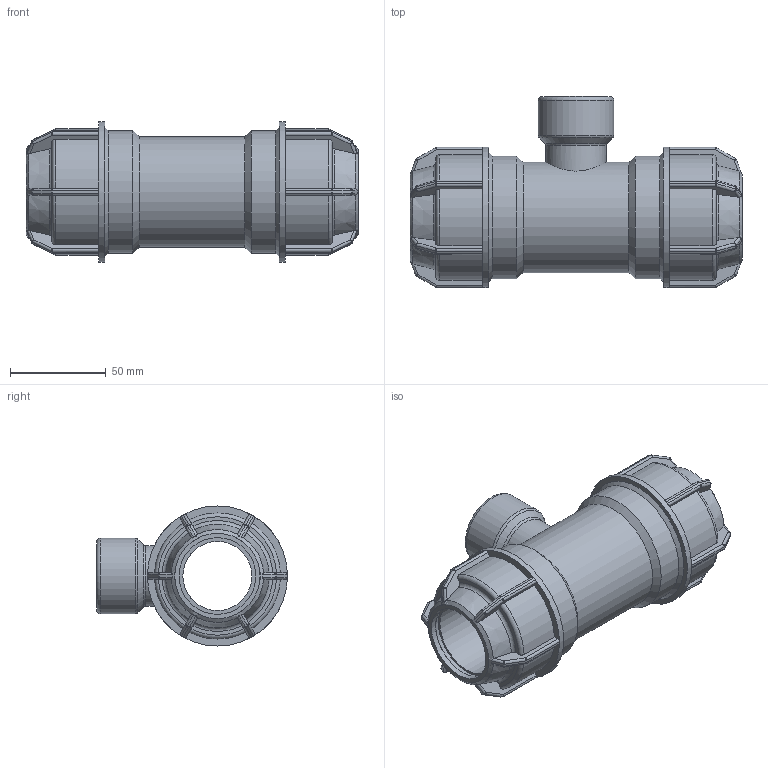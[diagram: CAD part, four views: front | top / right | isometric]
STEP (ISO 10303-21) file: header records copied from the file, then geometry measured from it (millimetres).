
FILE_DESCRIPTION(/* description */ ('PLASSON L.14 TEE FEMALE ADAPTOR (SILVER) 40 x 1" x 40'),/* implementation_level */ '2;1');
FILE_NAME(/* name */ 'C:\Dropbox\KIMPROJECTS-Inventor\99-16-3568-Processing\Silver Fittings\141400\141400040010.ipt.stp',/* time_stamp */ '2018-04-16T11:15:53+03:00',/* author */ ('KIM'),/* organization */ (''),/* preprocessor_version */ 'ST-DEVELOPER v15.6',/* originating_system */ 'Autodesk Inventor 2015',/* authorisation */ '');
FILE_SCHEMA (('AUTOMOTIVE_DESIGN { 1 0 10303 214 3 1 1 }'));
Length unit declared in the file: millimetre
Products named in the file (1): 141400040010
Bounding box: 173 x 99.5 x 73 mm (x, y, z)
Volume: 316290.7 mm3; surface area: 72551.8 mm2
Topology: 1 solids, 1 shells, 413 faces, 979 edges, 562 vertices
Faces by surface type: plane 193, cylinder 122, sphere 48, torus 31, cone 19
Full cylindrical faces by diameter (mm): 24 x1, 30.291 x1, 31.503 x1, 36 x1, 39.378 x1, 40 x4, 57.6 x1, 64 x2, 73 x2
Entity records: 11996 total; most frequent: CARTESIAN_POINT 3101, DIRECTION 1872, ORIENTED_EDGE 1822, EDGE_CURVE 911, AXIS2_PLACEMENT_3D 756, VERTEX_POINT 539, EDGE_LOOP 450, FACE_OUTER_BOUND 410
